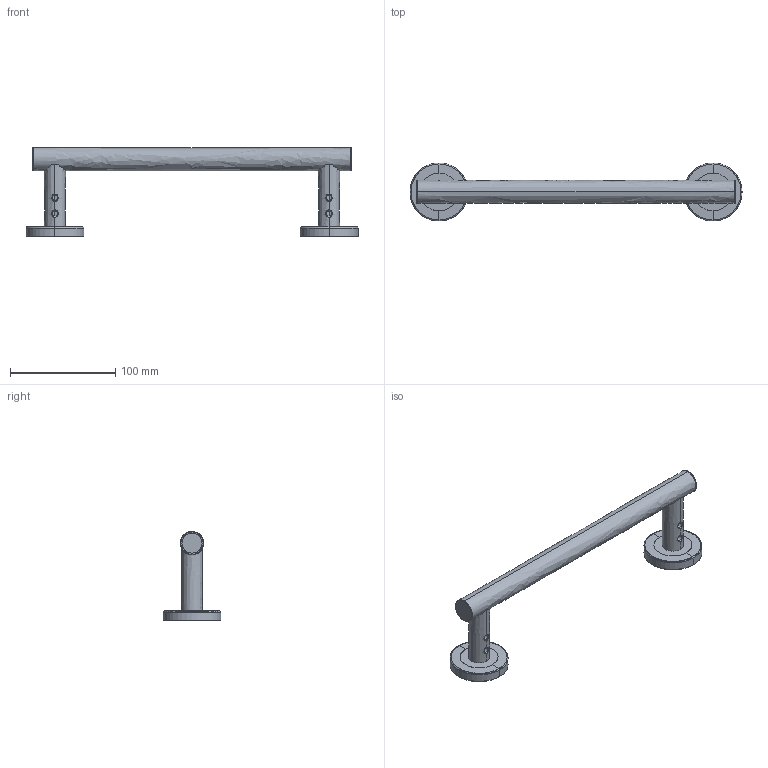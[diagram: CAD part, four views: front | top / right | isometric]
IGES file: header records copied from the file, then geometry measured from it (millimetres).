
Start section: SolidWorks IGES file using analytic representation for surfaces
Global section: file name: G:\Projects\New project\For Marketing\689-Archibest\235##63.IGS; native system: SolidWorks 2016; preprocessor: SolidWorks 2016; author: merry; date: 190411.165216; units: millimetre
Bounding box: 315 x 55 x 84.38 mm (x, y, z)
Surface area: 50634.8 mm2 (no closed solid volume)
Topology: 0 solids, 0 shells, 406 faces, 5684 edges, 5684 vertices
Faces by surface type: bspline 204, revolution 202
